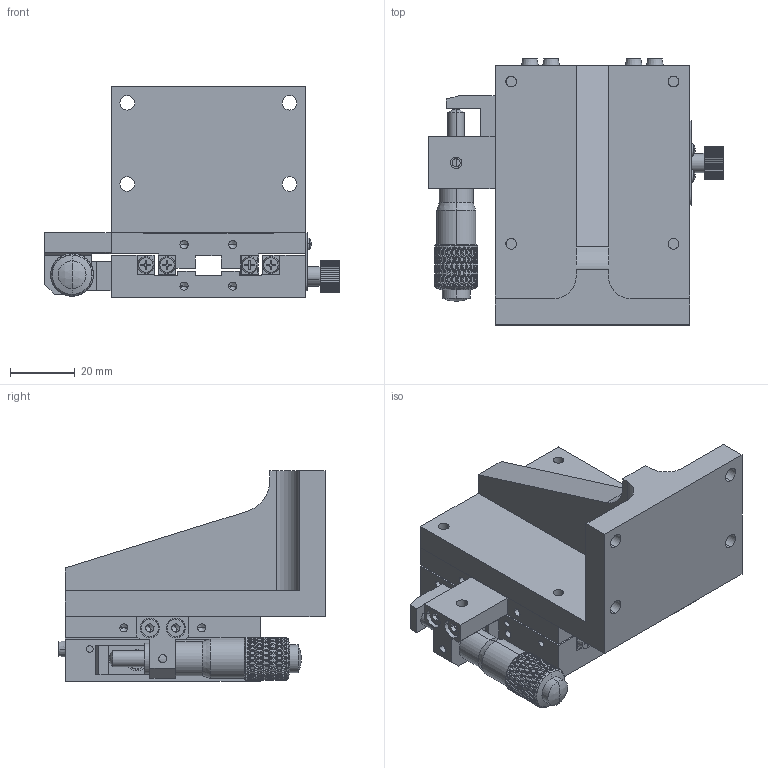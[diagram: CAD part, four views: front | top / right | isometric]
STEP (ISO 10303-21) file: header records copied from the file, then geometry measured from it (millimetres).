
FILE_DESCRIPTION (( 'STEP AP203' ), '1' );
FILE_NAME ('JCZ-60R.STEP', '2013-12-24T02:48:09', ( 'MMO' ), ( '' ), 'SwSTEP 2.0', 'SolidWorks 2013', '' );
FILE_SCHEMA (( 'CONFIG_CONTROL_DESIGN' ));
Length unit declared in the file: millimetre
Products named in the file (14): socket head cap screw_ks_KS 1003 - M4 x 6 x 6-N; JCX-60-20T-005; JCZ-60R; JCX-60-18T-006; JCX-60-20T-004; JCX-60-18T-003; JALB-72-R; JCX-60-11-01; round cross head screw_ks_KS 1023 RC - M2.5 x 5-N; JCX-60-20T-001; socket head cap screw_ks_KS 1003 - M3 x 5 x 5-N; JCX-60-20T-002; JCX-60R(20T); JV2-60-11
Assembly tree (39 placements, depth 3):
  JCZ-60R
    JCX-60-11-01
    JCX-60R(20T)
      JCX-60-20T-001
      JCX-60-20T-002
      JV2-60-11  x4
      JCX-60-20T-005
      JCX-60-18T-006
      JCX-60-20T-004
      JCX-60-18T-003
      JALB-72-R
      round cross head screw_ks_KS 1023 RC - M2.5 x 5-N  x2
      socket head cap screw_ks_KS 1003 - M3 x 5 x 5-N  x20
    socket head cap screw_ks_KS 1003 - M4 x 6 x 6-N  x4
Bounding box: 90.9 x 82 x 65 mm (x, y, z)
Volume: 141927.3 mm3; surface area: 63707.3 mm2
Topology: 38 solids, 38 shells, 2886 faces, 6634 edges, 3836 vertices
Faces by surface type: cylinder 872, bspline 832, plane 818, cone 202, torus 152, sphere 10
Entity records: 68402 total; most frequent: CARTESIAN_POINT 33610, ORIENTED_EDGE 8296, DIRECTION 5138, EDGE_CURVE 4148, VERTEX_POINT 2421, AXIS2_PLACEMENT_3D 2059, EDGE_LOOP 2019, ADVANCED_FACE 1824
